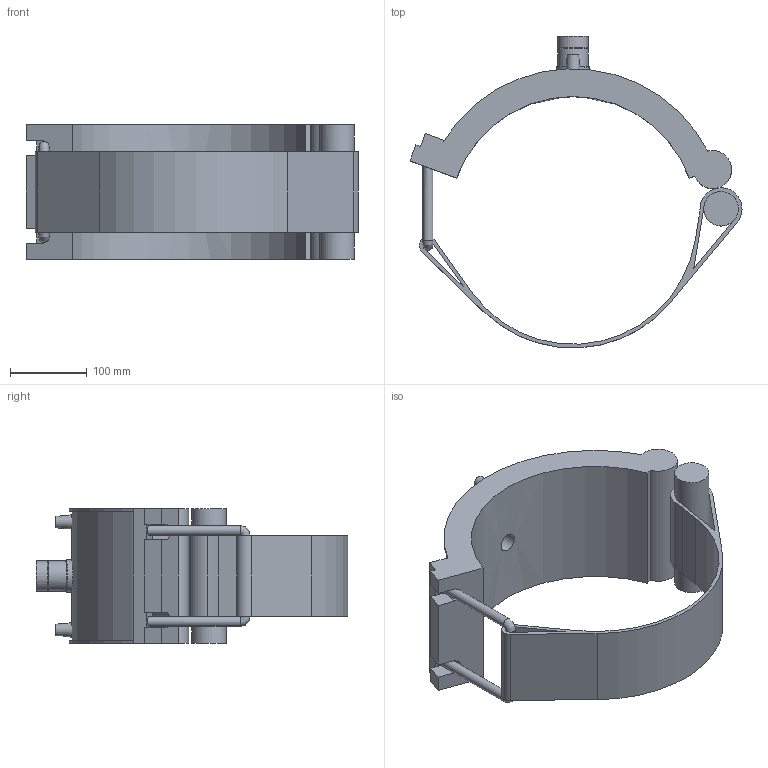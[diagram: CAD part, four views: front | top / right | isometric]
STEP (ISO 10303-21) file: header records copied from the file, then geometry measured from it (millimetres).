
FILE_DESCRIPTION(/* description */ ('PLASSON TRANSITION SADDLE 12''''IPS x 1"NPT'),/* implementation_level */ '2;1');
FILE_NAME(/* name */ 'C:\Dropbox\KIMPROJECTS-Inventor 2019\99-16-3568-Processing Inch\ASTM ElectroFusion 2021\5938B\5938B01312060.ipt.stp',/* time_stamp */ '2021-08-30T09:51:45+03:00',/* author */ ('KIM'),/* organization */ (''),/* preprocessor_version */ 'ST-DEVELOPER v17.2',/* originating_system */ 'Autodesk Inventor 2019',/* authorisation */ '');
FILE_SCHEMA (('AUTOMOTIVE_DESIGN { 1 0 10303 214 3 1 1 }'));
Length unit declared in the file: inch
Products named in the file (1): 5938B01312060
Bounding box: 433.39 x 407.09 x 176.02 mm (x, y, z)
Volume: 3709522.6 mm3; surface area: 447511.6 mm2
Topology: 1 solids, 1 shells, 78 faces, 202 edges, 132 vertices
Faces by surface type: plane 42, cylinder 28, cone 5, torus 2, bspline 1
Full cylindrical faces by diameter (mm): 4 x2, 10 x2, 12.936 x2, 24.233 x1, 30.291 x1, 38.378 x1, 39.378 x2, 42.407 x1, 45.027 x1
Entity records: 2825 total; most frequent: CARTESIAN_POINT 790, DIRECTION 422, ORIENTED_EDGE 406, EDGE_CURVE 203, AXIS2_PLACEMENT_3D 154, VERTEX_POINT 132, LINE 114, VECTOR 114
